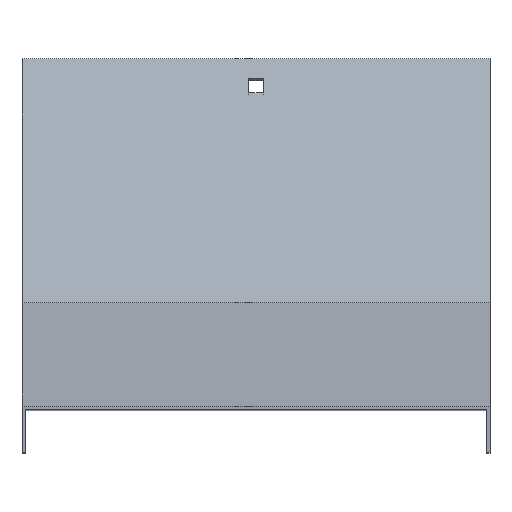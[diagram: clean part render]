
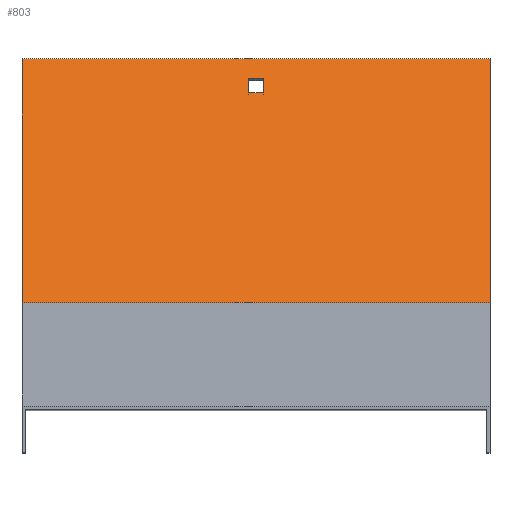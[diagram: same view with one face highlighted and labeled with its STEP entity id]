
A CAD part, top view. The second image highlights one B-rep face of the part: STEP entity #803.
In plain terms, the highlighted planar face has unit normal (0, 0.707, 0.707).
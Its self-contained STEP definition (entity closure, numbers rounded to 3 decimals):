
#7 = CARTESIAN_POINT ( 'NONE',  ( -101.5, 151.426, -365.574 ) ) ;
#28 = VERTEX_POINT ( 'NONE', #250 ) ;
#41 = ORIENTED_EDGE ( 'NONE', *, *, #295, .T. ) ;
#68 = ORIENTED_EDGE ( 'NONE', *, *, #799, .F. ) ;
#69 = EDGE_LOOP ( 'NONE', ( #68, #105, #200, #357 ) ) ;
#94 = EDGE_CURVE ( 'NONE', #479, #181, #591, .T. ) ;
#105 = ORIENTED_EDGE ( 'NONE', *, *, #635, .F. ) ;
#106 = CARTESIAN_POINT ( 'NONE',  ( -3.25, 142.94, -357.089 ) ) ;
#138 = DIRECTION ( 'NONE',  ( 0., -0.707, 0.707 ) ) ;
#143 = CARTESIAN_POINT ( 'NONE',  ( -101.5, 45.501, -259.649 ) ) ;
#160 = DIRECTION ( 'NONE',  ( -1., 0., 0. ) ) ;
#166 = VERTEX_POINT ( 'NONE', #749 ) ;
#181 = VERTEX_POINT ( 'NONE', #106 ) ;
#195 = CARTESIAN_POINT ( 'NONE',  ( 3.25, 136.576, -350.725 ) ) ;
#199 = LINE ( 'NONE', #324, #218 ) ;
#200 = ORIENTED_EDGE ( 'NONE', *, *, #202, .F. ) ;
#202 = EDGE_CURVE ( 'NONE', #181, #166, #230, .T. ) ;
#207 = DIRECTION ( 'NONE',  ( 0., 0.707, -0.707 ) ) ;
#218 = VECTOR ( 'NONE', #207, 1000. ) ;
#230 = LINE ( 'NONE', #490, #558 ) ;
#250 = CARTESIAN_POINT ( 'NONE',  ( 3.25, 136.576, -350.725 ) ) ;
#259 = EDGE_CURVE ( 'NONE', #480, #818, #365, .T. ) ;
#270 = VECTOR ( 'NONE', #675, 1000. ) ;
#295 = EDGE_CURVE ( 'NONE', #544, #818, #445, .T. ) ;
#298 = CARTESIAN_POINT ( 'NONE',  ( 101.5, 151.426, -365.574 ) ) ;
#317 = CARTESIAN_POINT ( 'NONE',  ( 101.5, 45.501, -259.649 ) ) ;
#324 = CARTESIAN_POINT ( 'NONE',  ( 3.25, 136.576, -350.725 ) ) ;
#334 = DIRECTION ( 'NONE',  ( -1., 0., 0. ) ) ;
#340 = ORIENTED_EDGE ( 'NONE', *, *, #846, .F. ) ;
#353 = VECTOR ( 'NONE', #334, 1000. ) ;
#357 = ORIENTED_EDGE ( 'NONE', *, *, #94, .F. ) ;
#365 = LINE ( 'NONE', #501, #395 ) ;
#377 = CARTESIAN_POINT ( 'NONE',  ( 101.5, 151.426, -365.574 ) ) ;
#395 = VECTOR ( 'NONE', #692, 1000. ) ;
#399 = ORIENTED_EDGE ( 'NONE', *, *, #702, .T. ) ;
#437 = VERTEX_POINT ( 'NONE', #711 ) ;
#445 = LINE ( 'NONE', #377, #521 ) ;
#462 = PLANE ( 'NONE',  #650 ) ;
#479 = VERTEX_POINT ( 'NONE', #725 ) ;
#480 = VERTEX_POINT ( 'NONE', #143 ) ;
#486 = ORIENTED_EDGE ( 'NONE', *, *, #259, .F. ) ;
#490 = CARTESIAN_POINT ( 'NONE',  ( -3.25, 136.576, -350.725 ) ) ;
#501 = CARTESIAN_POINT ( 'NONE',  ( -101.5, 45.501, -259.649 ) ) ;
#521 = VECTOR ( 'NONE', #160, 1000. ) ;
#544 = VERTEX_POINT ( 'NONE', #298 ) ;
#558 = VECTOR ( 'NONE', #704, 1000. ) ;
#564 = LINE ( 'NONE', #195, #814 ) ;
#591 = LINE ( 'NONE', #654, #720 ) ;
#594 = EDGE_LOOP ( 'NONE', ( #486, #340, #399, #41 ) ) ;
#635 = EDGE_CURVE ( 'NONE', #166, #28, #564, .T. ) ;
#650 = AXIS2_PLACEMENT_3D ( 'NONE', #786, #732, #138 ) ;
#654 = CARTESIAN_POINT ( 'NONE',  ( 3.25, 142.94, -357.089 ) ) ;
#657 = FACE_OUTER_BOUND ( 'NONE', #594, .T. ) ;
#675 = DIRECTION ( 'NONE',  ( 0., 0.707, -0.707 ) ) ;
#692 = DIRECTION ( 'NONE',  ( 0., 0.707, -0.707 ) ) ;
#702 = EDGE_CURVE ( 'NONE', #437, #544, #825, .T. ) ;
#704 = DIRECTION ( 'NONE',  ( 0., -0.707, 0.707 ) ) ;
#711 = CARTESIAN_POINT ( 'NONE',  ( 101.5, 45.501, -259.649 ) ) ;
#715 = FACE_BOUND ( 'NONE', #69, .T. ) ;
#720 = VECTOR ( 'NONE', #797, 1000. ) ;
#725 = CARTESIAN_POINT ( 'NONE',  ( 3.25, 142.94, -357.089 ) ) ;
#732 = DIRECTION ( 'NONE',  ( 0., 0.707, 0.707 ) ) ;
#749 = CARTESIAN_POINT ( 'NONE',  ( -3.25, 136.576, -350.725 ) ) ;
#765 = DIRECTION ( 'NONE',  ( 1., 0., 0. ) ) ;
#786 = CARTESIAN_POINT ( 'NONE',  ( 101.5, 45.501, -259.649 ) ) ;
#797 = DIRECTION ( 'NONE',  ( -1., 0., 0. ) ) ;
#798 = LINE ( 'NONE', #317, #353 ) ;
#799 = EDGE_CURVE ( 'NONE', #28, #479, #199, .T. ) ;
#803 = ADVANCED_FACE ( 'NONE', ( #715, #657 ), #462, .T. ) ;
#813 = CARTESIAN_POINT ( 'NONE',  ( 101.5, 45.501, -259.649 ) ) ;
#814 = VECTOR ( 'NONE', #765, 1000. ) ;
#818 = VERTEX_POINT ( 'NONE', #7 ) ;
#825 = LINE ( 'NONE', #813, #270 ) ;
#846 = EDGE_CURVE ( 'NONE', #437, #480, #798, .T. ) ;
